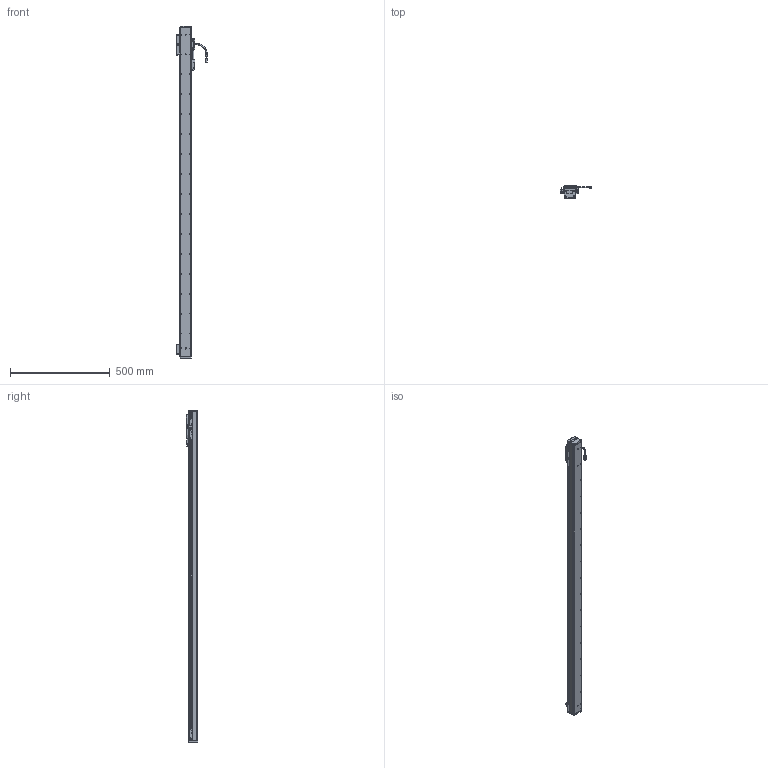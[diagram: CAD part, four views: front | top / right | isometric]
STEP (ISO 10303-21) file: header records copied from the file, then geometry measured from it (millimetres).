
FILE_DESCRIPTION(('Open CASCADE Model'),'2;1');
FILE_NAME('Open CASCADE Shape Model','2025-11-07T00:56:23',('Author'),( 'Open CASCADE'),'Open CASCADE STEP processor 7.6','Open CASCADE 7.6' ,'Unknown');
FILE_SCHEMA(('AUTOMOTIVE_DESIGN { 1 0 10303 214 1 1 1 1 }'));
Length unit declared in the file: millimetre
Products named in the file (25): Open CASCADE STEP translator 7.6 183; Open CASCADE STEP translator 7.6 183.1; Open CASCADE STEP translator 7.6 183.2; Open CASCADE STEP translator 7.6 183.3; Open CASCADE STEP translator 7.6 183.4; Open CASCADE STEP translator 7.6 183.5; Open CASCADE STEP translator 7.6 183.6; Open CASCADE STEP translator 7.6 183.7; Open CASCADE STEP translator 7.6 183.8; Open CASCADE STEP translator 7.6 183.9; Open CASCADE STEP translator 7.6 183.10; Open CASCADE STEP translator 7.6 183.11; Open CASCADE STEP translator 7.6 183.12; Open CASCADE STEP translator 7.6 183.13; Open CASCADE STEP translator 7.6 183.14; Open CASCADE STEP translator 7.6 183.14.1; Open CASCADE STEP translator 7.6 183.14.1.1; Open CASCADE STEP translator 7.6 183.14.1.2; Open CASCADE STEP translator 7.6 183.14.1.3; Open CASCADE STEP translator 7.6 183.14.1.4; Open CASCADE STEP translator 7.6 183.14.1.5; Open CASCADE STEP translator 7.6 183.15; Open CASCADE STEP translator 7.6 183.16; Open CASCADE STEP translator 7.6 183.17; Open CASCADE STEP translator 7.6 183.18
Assembly tree (24 placements, depth 4):
  Open CASCADE STEP translator 7.6 183
    Open CASCADE STEP translator 7.6 183.1
    Open CASCADE STEP translator 7.6 183.2
    Open CASCADE STEP translator 7.6 183.3
    Open CASCADE STEP translator 7.6 183.4
    Open CASCADE STEP translator 7.6 183.5
    Open CASCADE STEP translator 7.6 183.6
    Open CASCADE STEP translator 7.6 183.7
    Open CASCADE STEP translator 7.6 183.8
    Open CASCADE STEP translator 7.6 183.9
    Open CASCADE STEP translator 7.6 183.10
    Open CASCADE STEP translator 7.6 183.11
    Open CASCADE STEP translator 7.6 183.12
    Open CASCADE STEP translator 7.6 183.13
    Open CASCADE STEP translator 7.6 183.14
      Open CASCADE STEP translator 7.6 183.14.1
        Open CASCADE STEP translator 7.6 183.14.1.1
        Open CASCADE STEP translator 7.6 183.14.1.2
        Open CASCADE STEP translator 7.6 183.14.1.3
        Open CASCADE STEP translator 7.6 183.14.1.4
        Open CASCADE STEP translator 7.6 183.14.1.5
    Open CASCADE STEP translator 7.6 183.15
    Open CASCADE STEP translator 7.6 183.16
    Open CASCADE STEP translator 7.6 183.17
    Open CASCADE STEP translator 7.6 183.18
Bounding box: 158 x 60 x 1666 mm (x, y, z)
Volume: 4432855.3 mm3; surface area: 511749.1 mm2
Topology: 22 solids, 23 shells, 1979 faces, 4929 edges, 3128 vertices
Faces by surface type: plane 999, cylinder 768, bspline 112, cone 84, torus 16
Entity records: 150246 total; most frequent: CARTESIAN_POINT 53249, DIRECTION 17822, LINE 10767, VECTOR 10767, ORIENTED_EDGE 9724, PCURVE 9724, DEFINITIONAL_REPRESENTATION 9724, EDGE_CURVE 4862
